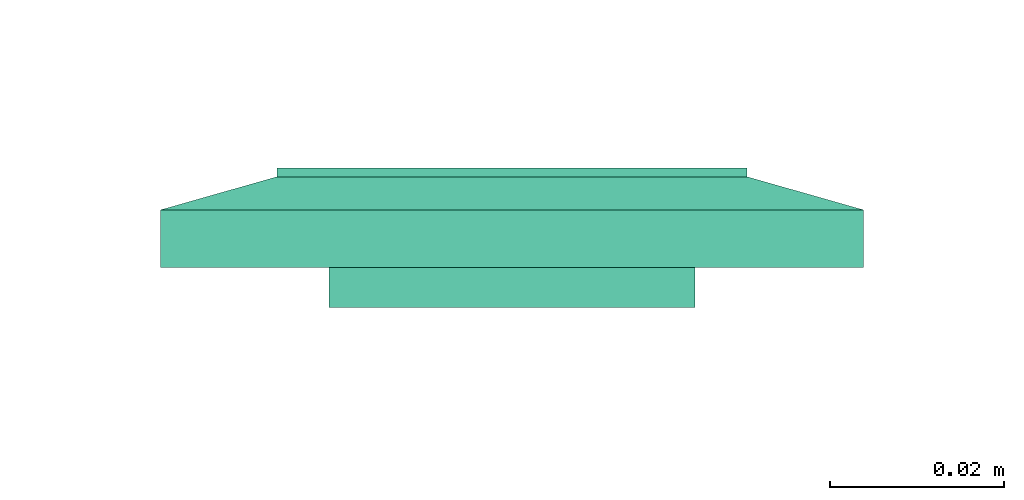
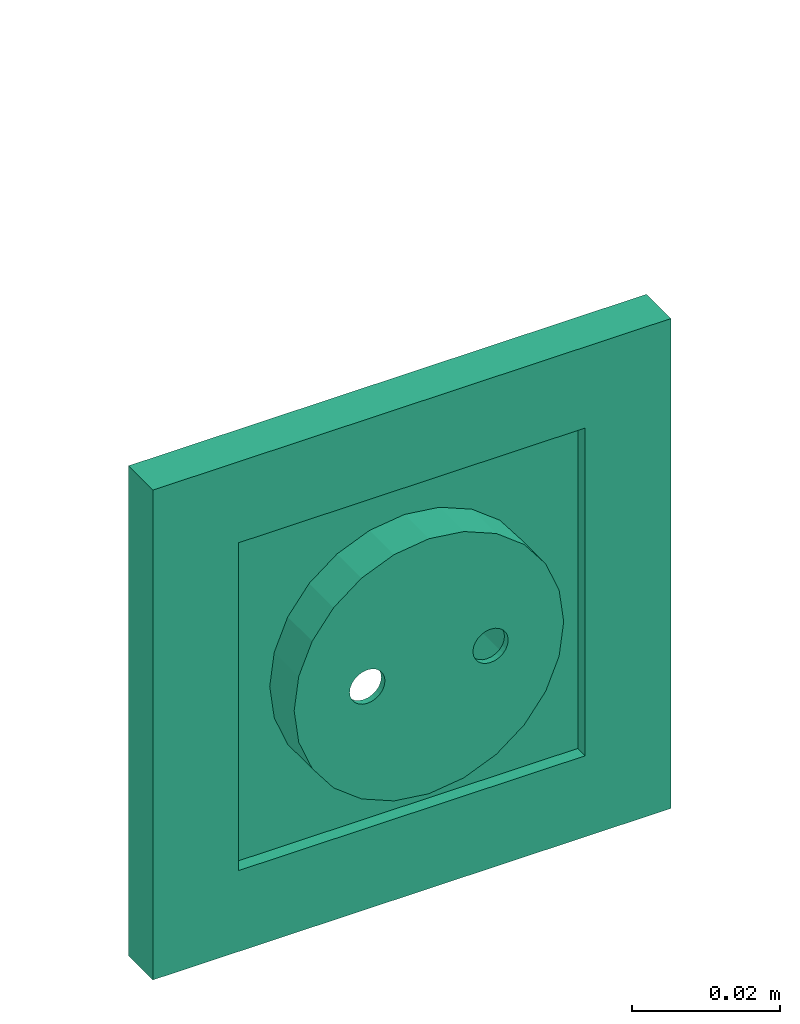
# One storey, part 34 of 153: 1 flow terminal.
"""IFC2X3 building model written with IfcOpenShell, lengths in metres."""

from ifc_helpers import new_model, entity, si_unit, converted_unit, derived_unit, direction, frame, origin, place, context, subcontext, project, spatial, face_set, surface_model, source, transform, mapped, type_object, type_shapes, element, save


model = new_model("IFC2X3")

# Units and contexts
model_context = context("Model", 3, precision=1e-05, world=origin(), true_north=direction((6.12303176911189e-17, 1.0)))
body_context = subcontext(model_context, "Body", "Model", "MODEL_VIEW")
ifc_project = project(units=[si_unit("LENGTHUNIT", "METRE"), si_unit("AREAUNIT", "SQUARE_METRE"), si_unit("VOLUMEUNIT", "CUBIC_METRE"), converted_unit("PLANEANGLEUNIT", "DEGREE", entity("IfcRatioMeasure", 0.0174532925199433), si_unit("PLANEANGLEUNIT", "RADIAN"), dimensions=[0, 0, 0, 0, 0, 0, 0]), si_unit("MASSUNIT", "GRAM", prefix="KILO"), derived_unit("MASSDENSITYUNIT", [(si_unit("MASSUNIT", "GRAM", prefix="KILO"), 1), (si_unit("LENGTHUNIT", "METRE"), -3)]), si_unit("TIMEUNIT", "SECOND"), si_unit("FREQUENCYUNIT", "HERTZ"), si_unit("THERMODYNAMICTEMPERATUREUNIT", "DEGREE_CELSIUS"), derived_unit("THERMALTRANSMITTANCEUNIT", [(si_unit("MASSUNIT", "GRAM", prefix="KILO"), 1), (si_unit("THERMODYNAMICTEMPERATUREUNIT", "KELVIN"), -1), (si_unit("TIMEUNIT", "SECOND"), -3)]), derived_unit("VOLUMETRICFLOWRATEUNIT", [(si_unit("LENGTHUNIT", "METRE"), 3), (si_unit("TIMEUNIT", "SECOND"), -1)]), si_unit("ELECTRICCURRENTUNIT", "AMPERE"), si_unit("ELECTRICVOLTAGEUNIT", "VOLT"), si_unit("POWERUNIT", "WATT"), si_unit("FORCEUNIT", "NEWTON"), si_unit("ILLUMINANCEUNIT", "LUX"), si_unit("LUMINOUSFLUXUNIT", "LUMEN"), si_unit("LUMINOUSINTENSITYUNIT", "CANDELA"), derived_unit("USERDEFINED", [(si_unit("MASSUNIT", "GRAM", prefix="KILO"), -1), (si_unit("LENGTHUNIT", "METRE"), -2), (si_unit("TIMEUNIT", "SECOND"), 3), (si_unit("LUMINOUSFLUXUNIT", "LUMEN"), 1)]), derived_unit("LINEARVELOCITYUNIT", [(si_unit("LENGTHUNIT", "METRE"), 1), (si_unit("TIMEUNIT", "SECOND"), -1)]), si_unit("PRESSUREUNIT", "PASCAL"), derived_unit("USERDEFINED", [(si_unit("LENGTHUNIT", "METRE"), -2), (si_unit("MASSUNIT", "GRAM", prefix="KILO"), 1), (si_unit("TIMEUNIT", "SECOND"), -2)])], contexts=[model_context])

# Site, building, storey
site_placement = place(None, origin())
site = spatial("IfcSite", under=ifc_project, at=site_placement, Name="Default", CompositionType="ELEMENT")
building_placement = place(site_placement, origin())
building = spatial("IfcBuilding", under=site, at=building_placement, CompositionType="ELEMENT")
storey_placement = place(building_placement, frame((0.0, 0.0, -4.62)))
storey = spatial("IfcBuildingStorey", under=building, at=storey_placement, Name="S02", CompositionType="ELEMENT", Elevation=-4.62)

# Flow terminal
light_fixture_type = type_object("IfcLightFixtureType", Name="PC IP44", PredefinedType="NOTDEFINED")
shared_shape = source(origin(), body_context, "Body", "SurfaceModel", [
    surface_model("IfcFaceBasedSurfaceModel", [(-0.00225000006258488, 0.0127499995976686, 0.00949633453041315), (0.0, 0.0104999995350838, 0.00949633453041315), (0.0, 0.0115376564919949, 0.0101656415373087), (0.0, 0.0139623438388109, 0.0101656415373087), (0.0, 0.0144589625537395, 0.00984531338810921), (0.0, 0.0121178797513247, 0.0102778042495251), (0.0, 0.0133821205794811, 0.0102778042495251), (0.0, 0.0127499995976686, 0.010399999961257), (0.0, 0.0149999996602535, 0.00949633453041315), (0.00225000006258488, 0.0127499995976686, 0.00949633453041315), (0.0, 0.0110410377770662, 0.00984531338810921), (0.0, 0.0127499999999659, 0.00949633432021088), (0.00225000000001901, 0.0127499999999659, 0.00949633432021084), (0.00217333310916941, 0.0121676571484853, 0.00949633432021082), (0.00194855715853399, 0.0116249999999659, 0.00949633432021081), (0.00159099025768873, 0.0111590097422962, 0.00949633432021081), (0.001125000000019, 0.010801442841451, 0.00949633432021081), (0.00058234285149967, 0.0105766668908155, 0.00949633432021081), (0.0, 0.0104999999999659, 0.00949633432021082), (-0.000582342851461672, 0.0105766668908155, 0.00949633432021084), (-0.001124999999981, 0.010801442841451, 0.00949633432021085), (-0.00159099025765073, 0.0111590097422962, 0.00949633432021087), (-0.00194855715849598, 0.011624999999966, 0.00949633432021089), (-0.0021733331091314, 0.0121676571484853, 0.00949633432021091), (-0.00224999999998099, 0.012749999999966, 0.00949633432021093), (-0.00217333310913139, 0.0133323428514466, 0.00949633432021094), (-0.00194855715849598, 0.013874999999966, 0.00949633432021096), (-0.00159099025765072, 0.0143409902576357, 0.00949633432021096), (-0.00112499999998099, 0.0146985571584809, 0.00949633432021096), (-0.00058234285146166, 0.0149233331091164, 0.00949633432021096), (0.0, 0.0149999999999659, 0.00949633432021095), (0.000582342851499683, 0.0149233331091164, 0.00949633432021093), (0.00112500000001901, 0.0146985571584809, 0.00949633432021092), (0.00159099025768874, 0.0143409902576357, 0.00949633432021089), (0.001948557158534, 0.0138749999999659, 0.00949633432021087), (0.00217333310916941, 0.0133323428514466, 0.00949633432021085), (0.00225000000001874, 0.0127499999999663, -0.00360000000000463), (0.00217333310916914, 0.0121676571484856, -0.00360000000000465), (0.00194855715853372, 0.0116249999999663, -0.00360000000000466), (0.00159099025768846, 0.0111590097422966, -0.00360000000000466), (0.00112500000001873, 0.0108014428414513, -0.00360000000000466), (0.000582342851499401, 0.0105766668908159, -0.00360000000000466), (0.0, 0.0104999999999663, -0.00360000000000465), (-0.000582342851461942, 0.0105766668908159, -0.00360000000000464), (-0.00112499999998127, 0.0108014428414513, -0.00360000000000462), (-0.001590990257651, 0.0111590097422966, -0.0036000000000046), (-0.00194855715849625, 0.0116249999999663, -0.00360000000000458), (-0.00217333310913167, 0.0121676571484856, -0.00360000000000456), (-0.00224999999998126, 0.0127499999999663, -0.00360000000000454), (-0.00217333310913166, 0.013332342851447, -0.00360000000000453), (-0.00194855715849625, 0.0138749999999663, -0.00360000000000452), (-0.00159099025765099, 0.014340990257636, -0.00360000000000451), (-0.00112499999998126, 0.0146985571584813, -0.00360000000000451), (-0.000582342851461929, 0.0149233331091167, -0.00360000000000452), (0.0, 0.0149999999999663, -0.00360000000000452), (0.000582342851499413, 0.0149233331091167, -0.00360000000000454), (0.00112500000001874, 0.0146985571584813, -0.00360000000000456), (0.00159099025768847, 0.014340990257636, -0.00360000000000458), (0.00194855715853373, 0.0138749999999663, -0.0036000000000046), (0.00217333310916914, 0.013332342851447, -0.00360000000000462), (0.0270000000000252, 0.026999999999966, 0.0113999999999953), (-0.0269999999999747, 0.026999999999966, 0.0113999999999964), (-0.0269999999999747, -0.0270000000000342, 0.0113999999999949), (0.0270000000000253, -0.0270000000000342, 0.0113999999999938), (-0.0199999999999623, 0.0, 0.0113999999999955), (-0.0193185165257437, -0.00517638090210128, 0.0113999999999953), (-0.0173205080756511, -0.0100000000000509, 0.0113999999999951), (-0.0141421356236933, -0.0141421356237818, 0.011399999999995), (-0.00999999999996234, -0.0173205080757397, 0.0113999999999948), (-0.00517638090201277, -0.0193185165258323, 0.0113999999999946), (0.0, -0.0200000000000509, 0.0113999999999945), (0.00517638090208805, -0.0193185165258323, 0.0113999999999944), (0.0100000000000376, -0.0173205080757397, 0.0113999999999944), (0.0141421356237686, -0.0141421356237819, 0.0113999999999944), (0.0173205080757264, -0.010000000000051, 0.0113999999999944), (0.0193185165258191, -0.00517638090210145, 0.0113999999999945), (0.0200000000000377, 0.0, 0.0113999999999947), (0.0193185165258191, 0.00517638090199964, 0.0113999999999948), (0.0173205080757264, 0.0099999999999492, 0.011399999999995), (0.0141421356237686, 0.0141421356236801, 0.0113999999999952), (0.0100000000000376, 0.0173205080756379, 0.0113999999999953), (0.00517638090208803, 0.0193185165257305, 0.0113999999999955), (0.0, 0.0199999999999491, 0.0113999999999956), (-0.00517638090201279, 0.0193185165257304, 0.0113999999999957), (-0.00999999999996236, 0.0173205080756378, 0.0113999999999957), (-0.0141421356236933, 0.01414213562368, 0.0113999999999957), (-0.0173205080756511, 0.00999999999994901, 0.0113999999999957), (-0.0193185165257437, 0.00517638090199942, 0.0113999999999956), (0.0270000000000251, 0.0269999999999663, 0.00199999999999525), (0.0270000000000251, -0.0270000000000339, 0.00199999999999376), (-0.0269999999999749, -0.0270000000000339, 0.00199999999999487), (-0.0269999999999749, 0.0269999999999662, 0.00199999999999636), (0.0210000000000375, 0.0, 0.00199999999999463), (0.0202844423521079, -0.00543519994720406, 0.00199999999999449), (0.0181865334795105, -0.0105000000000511, 0.0019999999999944), (0.0148492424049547, -0.0148492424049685, 0.00199999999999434), (0.0105000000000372, -0.0181865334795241, 0.00199999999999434), (0.0054351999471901, -0.0202844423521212, 0.00199999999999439), (0.0, -0.0210000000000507, 0.00199999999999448), (-0.00543519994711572, -0.020284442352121, 0.00199999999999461), (-0.0104999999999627, -0.0181865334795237, 0.00199999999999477), (-0.0148492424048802, -0.014849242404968, 0.00199999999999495), (-0.0181865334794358, -0.0105000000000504, 0.00199999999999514), (-0.020284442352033, -0.00543519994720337, 0.00199999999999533), (-0.0209999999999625, 0.0, 0.00199999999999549), (-0.0202844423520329, 0.0054351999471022, 0.00199999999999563), (-0.0181865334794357, 0.0104999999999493, 0.00199999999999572), (-0.01484924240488, 0.0148492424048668, 0.00199999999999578), (-0.0104999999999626, 0.0181865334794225, 0.00199999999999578), (-0.00543519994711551, 0.0202844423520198, 0.00199999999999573), (0.0, 0.0209999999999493, 0.00199999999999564), (0.00543519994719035, 0.0202844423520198, 0.00199999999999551), (0.0105000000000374, 0.0181865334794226, 0.00199999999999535), (0.0148492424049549, 0.0148492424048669, 0.00199999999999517), (0.0181865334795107, 0.0104999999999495, 0.00199999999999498), (0.0202844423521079, 0.00543519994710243, 0.00199999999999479), (0.0200000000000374, 0.0, -0.00360000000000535), (0.0193185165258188, -0.00517638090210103, -0.00360000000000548), (0.0173205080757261, -0.0100000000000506, -0.00360000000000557), (0.0141421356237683, -0.0141421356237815, -0.00360000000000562), (0.0100000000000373, -0.0173205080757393, -0.00360000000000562), (0.00517638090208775, -0.0193185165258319, -0.00360000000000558), (0.0, -0.0200000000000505, -0.00360000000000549), (-0.00517638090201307, -0.0193185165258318, -0.00360000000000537), (-0.00999999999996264, -0.0173205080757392, -0.00360000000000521), (-0.0141421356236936, -0.0141421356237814, -0.00360000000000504), (-0.0173205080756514, -0.0100000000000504, -0.00360000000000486), (-0.019318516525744, -0.00517638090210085, -0.00360000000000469), (-0.0199999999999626, 0.0, -0.00360000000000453), (-0.0193185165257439, 0.00517638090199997, -0.0036000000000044), (-0.0173205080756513, 0.00999999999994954, -0.00360000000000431), (-0.0141421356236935, 0.0141421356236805, -0.00360000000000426), (-0.00999999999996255, 0.0173205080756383, -0.00360000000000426), (-0.00517638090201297, 0.0193185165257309, -0.0036000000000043), (0.0, 0.0199999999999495, -0.00360000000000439), (0.00517638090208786, 0.0193185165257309, -0.00360000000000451), (0.0100000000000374, 0.0173205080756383, -0.00360000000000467), (0.0141421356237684, 0.0141421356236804, -0.00360000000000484), (0.0173205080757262, 0.0099999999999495, -0.00360000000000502), (0.0193185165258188, 0.00517638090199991, -0.00360000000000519), (-0.0123499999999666, 0.0, -0.00360000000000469), (-0.0122562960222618, -0.000711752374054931, -0.00360000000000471), (-0.0119815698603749, -0.00137500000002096, -0.00360000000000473), (-0.0115445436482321, -0.00194454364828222, -0.00360000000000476), (-0.0109749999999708, -0.00238156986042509, -0.00360000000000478), (-0.0103117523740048, -0.00265629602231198, -0.0036000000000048), (-0.00959999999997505, -0.00275000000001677, -0.00360000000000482), (-0.0088882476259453, -0.00265629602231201, -0.00360000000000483), (-0.00822499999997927, -0.00238156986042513, -0.00360000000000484), (-0.00765545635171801, -0.00194454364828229, -0.00360000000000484), (-0.00721843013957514, -0.00137500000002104, -0.00360000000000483), (-0.00694370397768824, -0.000711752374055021, -0.00360000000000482), (-0.00684999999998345, 0.0, -0.0036000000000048), (-0.00694370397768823, 0.000711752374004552, -0.00360000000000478), (-0.00721843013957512, 0.00137499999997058, -0.00360000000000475), (-0.00765545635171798, 0.00194454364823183, -0.00360000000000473), (-0.00822499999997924, 0.00238156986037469, -0.0036000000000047), (-0.00888824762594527, 0.00265629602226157, -0.00360000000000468), (-0.00959999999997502, 0.00274999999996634, -0.00360000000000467), (-0.0103117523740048, 0.00265629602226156, -0.00360000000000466), (-0.0109749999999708, 0.00238156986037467, -0.00360000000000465), (-0.011544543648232, 0.00194454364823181, -0.00360000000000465), (-0.0119815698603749, 0.00137499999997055, -0.00360000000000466), (-0.0122562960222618, 0.000711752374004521, -0.00360000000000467), (0.00685000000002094, 0.0, -0.00360000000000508), (0.0069437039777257, -0.00071175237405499, -0.0036000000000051), (0.00721843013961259, -0.00137500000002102, -0.00360000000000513), (0.00765545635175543, -0.00194454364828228, -0.00360000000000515), (0.00822500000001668, -0.00238156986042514, -0.00360000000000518), (0.00888824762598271, -0.00265629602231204, -0.0036000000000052), (0.00960000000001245, -0.00275000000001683, -0.00360000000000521), (0.0103117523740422, -0.00265629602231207, -0.00360000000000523), (0.0109750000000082, -0.00238156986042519, -0.00360000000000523), (0.0115445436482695, -0.00194454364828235, -0.00360000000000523), (0.0119815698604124, -0.0013750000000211, -0.00360000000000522), (0.0122562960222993, -0.00071175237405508, -0.00360000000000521), (0.012350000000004, 0.0, -0.00360000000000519), (0.0122562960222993, 0.000711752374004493, -0.00360000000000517), (0.0119815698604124, 0.00137499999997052, -0.00360000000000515), (0.0115445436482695, 0.00194454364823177, -0.00360000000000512), (0.0109750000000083, 0.00238156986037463, -0.0036000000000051), (0.0103117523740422, 0.00265629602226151, -0.00360000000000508), (0.00960000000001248, 0.00274999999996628, -0.00360000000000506), (0.00888824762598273, 0.0026562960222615, -0.00360000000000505), (0.0082250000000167, 0.00238156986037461, -0.00360000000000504), (0.00765545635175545, 0.00194454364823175, -0.00360000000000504), (0.0072184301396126, 0.00137499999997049, -0.00360000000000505), (0.00694370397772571, 0.000711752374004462, -0.00360000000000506), (0.0210000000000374, 0.0, -0.00460000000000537), (0.0202844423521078, -0.00543519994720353, -0.00460000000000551), (0.0181865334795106, -0.0105000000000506, -0.0046000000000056), (0.0148492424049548, -0.0148492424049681, -0.00460000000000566), (0.0105000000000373, -0.0181865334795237, -0.00460000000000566), (0.00543519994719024, -0.0202844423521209, -0.00460000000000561), (0.0, -0.0210000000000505, -0.00460000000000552), (-0.00543519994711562, -0.0202844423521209, -0.00460000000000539), (-0.0104999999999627, -0.0181865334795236, -0.00460000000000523), (-0.0148492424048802, -0.0148492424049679, -0.00460000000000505), (-0.0181865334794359, -0.0105000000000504, -0.00460000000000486), (-0.0202844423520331, -0.00543519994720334, -0.00460000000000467), (-0.0209999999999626, 0.0, -0.00460000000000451), (-0.020284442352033, 0.00543519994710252, -0.00460000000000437), (-0.0181865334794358, 0.0104999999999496, -0.00460000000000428), (-0.0148492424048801, 0.0148492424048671, -0.00460000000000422), (-0.0104999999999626, 0.0181865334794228, -0.00460000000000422), (-0.00543519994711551, 0.02028444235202, -0.00460000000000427), (0.0, 0.0209999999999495, -0.00460000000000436), (0.00543519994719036, 0.02028444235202, -0.00460000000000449), (0.0105000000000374, 0.0181865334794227, -0.00460000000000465), (0.0148492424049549, 0.014849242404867, -0.00460000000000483), (0.0181865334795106, 0.0104999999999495, -0.00460000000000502), (0.0202844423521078, 0.00543519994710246, -0.00460000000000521), (-0.00684999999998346, 0.0, -0.0046000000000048), (-0.00694370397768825, 0.000711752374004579, -0.00460000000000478), (-0.00721843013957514, 0.00137499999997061, -0.00460000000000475), (-0.007655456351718, 0.00194454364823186, -0.00460000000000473), (-0.00822499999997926, 0.00238156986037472, -0.0046000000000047), (-0.00888824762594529, 0.0026562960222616, -0.00460000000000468), (-0.00959999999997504, 0.00274999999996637, -0.00460000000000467), (-0.0103117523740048, 0.00265629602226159, -0.00460000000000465), (-0.0109749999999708, 0.0023815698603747, -0.00460000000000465), (-0.0115445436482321, 0.00194454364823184, -0.00460000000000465), (-0.0119815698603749, 0.00137499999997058, -0.00460000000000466), (-0.0122562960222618, 0.000711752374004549, -0.00460000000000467), (-0.0123499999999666, 0.0, -0.00460000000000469), (-0.0122562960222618, -0.000711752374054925, -0.00460000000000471), (-0.0119815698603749, -0.00137500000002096, -0.00460000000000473), (-0.0115445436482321, -0.00194454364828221, -0.00460000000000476), (-0.0109749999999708, -0.00238156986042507, -0.00460000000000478), (-0.0103117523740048, -0.00265629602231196, -0.0046000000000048), (-0.00959999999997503, -0.00275000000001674, -0.00460000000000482), (-0.00888824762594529, -0.00265629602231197, -0.00460000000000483), (-0.00822499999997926, -0.00238156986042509, -0.00460000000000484), (-0.007655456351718, -0.00194454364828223, -0.00460000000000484), (-0.00721843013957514, -0.00137500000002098, -0.00460000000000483), (-0.00694370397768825, -0.000711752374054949, -0.00460000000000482), (0.012350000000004, 0.0, -0.00460000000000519), (0.0122562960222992, 0.000711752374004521, -0.00460000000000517), (0.0119815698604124, 0.00137499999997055, -0.00460000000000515), (0.0115445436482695, 0.0019445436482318, -0.00460000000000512), (0.0109750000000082, 0.00238156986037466, -0.0046000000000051), (0.0103117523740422, 0.00265629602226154, -0.00460000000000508), (0.00960000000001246, 0.00274999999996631, -0.00460000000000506), (0.00888824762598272, 0.00265629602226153, -0.00460000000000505), (0.00822500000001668, 0.00238156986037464, -0.00460000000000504), (0.00765545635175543, 0.00194454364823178, -0.00460000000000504), (0.00721843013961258, 0.00137499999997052, -0.00460000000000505), (0.00694370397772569, 0.00071175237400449, -0.00460000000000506), (0.00685000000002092, 0.0, -0.00460000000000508), (0.00694370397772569, -0.000711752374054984, -0.0046000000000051), (0.00721843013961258, -0.00137500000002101, -0.00460000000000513), (0.00765545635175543, -0.00194454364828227, -0.00460000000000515), (0.00822500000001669, -0.00238156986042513, -0.00460000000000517), (0.00888824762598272, -0.00265629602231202, -0.0046000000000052), (0.00960000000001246, -0.0027500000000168, -0.00460000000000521), (0.0103117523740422, -0.00265629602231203, -0.00460000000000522), (0.0109750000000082, -0.00238156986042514, -0.00460000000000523), (0.0115445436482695, -0.00194454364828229, -0.00460000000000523), (0.0119815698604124, -0.00137500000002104, -0.00460000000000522), (0.0122562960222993, -0.000711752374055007, -0.00460000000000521), (0.040350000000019, 0.0403499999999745, 0.00659999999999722), (0.040350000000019, -0.0403500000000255, 0.00659999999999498), (-0.0403499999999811, -0.0403500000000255, 0.00659999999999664), (-0.0403499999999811, 0.0403499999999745, 0.00659999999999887), (0.027000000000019, 0.0269999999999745, 0.00659999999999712), (-0.0269999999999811, 0.0269999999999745, 0.00659999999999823), (-0.026999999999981, -0.0270000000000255, 0.00659999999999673), (0.027000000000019, -0.0270000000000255, 0.00659999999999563), (0.027000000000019, 0.0269999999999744, 0.0103999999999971), (-0.026999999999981, 0.0269999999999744, 0.0103999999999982), (-0.026999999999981, -0.0270000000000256, 0.0103999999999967), (0.027000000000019, -0.0270000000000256, 0.0103999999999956), (0.040350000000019, 0.0403499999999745, 0.00659999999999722), (0.040350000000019, -0.0403500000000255, 0.00659999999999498), (-0.0403499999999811, -0.0403500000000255, 0.00659999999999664), (-0.0403499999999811, 0.0403499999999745, 0.00659999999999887), (-0.0269999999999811, 0.0269999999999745, 0.00659999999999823), (-0.0269999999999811, -0.0270000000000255, 0.00659999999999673), (0.0270000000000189, -0.0270000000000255, 0.00659999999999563), (0.0270000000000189, 0.0269999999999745, 0.00659999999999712), (0.0403500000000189, 0.0403499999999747, 0.0), (0.0403500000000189, -0.0403500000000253, 0.0), (-0.0403499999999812, -0.0403500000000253, 0.0), (-0.0403499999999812, 0.0403499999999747, 0.0), (0.0270000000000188, 0.0269999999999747, 0.0), (-0.0269999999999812, 0.0269999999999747, 0.0), (-0.0269999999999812, -0.0270000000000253, 0.0), (0.0270000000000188, -0.0270000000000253, 0.0)], [face_set([[[0, 1, 2]], [[3, 4, 2, 5]], [[6, 3, 5, 7]], [[2, 4, 0]], [[4, 8, 0]], [[3, 9, 8]], [[1, 9, 10]], [[2, 3, 6, 7]], [[3, 10, 9]], [[2, 10, 3]], [[11, 1, 0, 8]], [[11, 8, 9, 1]]]), face_set([[[12, 13, 14, 15, 16, 17, 18, 19, 20, 21, 22, 23, 24, 25, 26, 27, 28, 29, 30, 31, 32, 33, 34, 35]], [[36, 37, 38, 39, 40, 41, 42, 43, 44, 45, 46, 47, 48, 49, 50, 51, 52, 53, 54, 55, 56, 57, 58, 59]], [[48, 47, 23, 24]], [[47, 46, 22, 23]], [[45, 44, 20, 21]], [[46, 45, 21, 22]], [[44, 43, 19, 20]], [[18, 19, 43, 42]], [[42, 41, 17, 18]], [[41, 40, 16, 17]], [[39, 38, 14, 15]], [[40, 39, 15, 16]], [[38, 37, 13, 14]], [[12, 13, 37, 36]], [[36, 59, 35, 12]], [[59, 58, 34, 35]], [[57, 56, 32, 33]], [[58, 57, 33, 34]], [[56, 55, 31, 32]], [[30, 31, 55, 54]], [[54, 53, 29, 30]], [[53, 52, 28, 29]], [[51, 50, 26, 27]], [[52, 51, 27, 28]], [[50, 49, 25, 26]], [[24, 25, 49, 48]]]), face_set([[[60, 61, 62, 63], [64, 65, 66, 67, 68, 69, 70, 71, 72, 73, 74, 75, 76, 77, 78, 79, 80, 81, 82, 83, 84, 85, 86, 87]], [[88, 89, 90, 91], [92, 93, 94, 95, 96, 97, 98, 99, 100, 101, 102, 103, 104, 105, 106, 107, 108, 109, 110, 111, 112, 113, 114, 115]], [[61, 60, 88, 91]], [[62, 61, 91, 90]], [[63, 62, 90, 89]], [[60, 63, 89, 88]], [[116, 117, 118, 119, 120, 121, 122, 123, 124, 125, 126, 127, 128, 129, 130, 131, 132, 133, 134, 135, 136, 137, 138, 139], [140, 141, 142, 143, 144, 145, 146, 147, 148, 149, 150, 151, 152, 153, 154, 155, 156, 157, 158, 159, 160, 161, 162, 163], [164, 165, 166, 167, 168, 169, 170, 171, 172, 173, 174, 175, 176, 177, 178, 179, 180, 181, 182, 183, 184, 185, 186, 187]], [[64, 128, 127, 65]], [[65, 127, 126, 66]], [[67, 125, 124, 68]], [[66, 126, 125, 67]], [[68, 124, 123, 69]], [[122, 70, 69, 123]], [[70, 122, 121, 71]], [[71, 121, 120, 72]], [[73, 119, 118, 74]], [[72, 120, 119, 73]], [[74, 118, 117, 75]], [[116, 76, 75, 117]], [[76, 116, 139, 77]], [[77, 139, 138, 78]], [[79, 137, 136, 80]], [[78, 138, 137, 79]], [[80, 136, 135, 81]], [[134, 82, 81, 135]], [[82, 134, 133, 83]], [[83, 133, 132, 84]], [[84, 132, 131, 85]], [[85, 131, 130, 86]], [[130, 129, 87, 86]], [[64, 87, 129, 128]], [[188, 189, 190, 191, 192, 193, 194, 195, 196, 197, 198, 199, 200, 201, 202, 203, 204, 205, 206, 207, 208, 209, 210, 211], [212, 213, 214, 215, 216, 217, 218, 219, 220, 221, 222, 223, 224, 225, 226, 227, 228, 229, 230, 231, 232, 233, 234, 235], [236, 237, 238, 239, 240, 241, 242, 243, 244, 245, 246, 247, 248, 249, 250, 251, 252, 253, 254, 255, 256, 257, 258, 259]], [[200, 199, 103, 104]], [[199, 198, 102, 103]], [[197, 196, 100, 101]], [[198, 197, 101, 102]], [[196, 195, 99, 100]], [[98, 99, 195, 194]], [[194, 193, 97, 98]], [[193, 192, 96, 97]], [[191, 190, 94, 95]], [[192, 191, 95, 96]], [[190, 189, 93, 94]], [[92, 93, 189, 188]], [[188, 211, 115, 92]], [[211, 210, 114, 115]], [[209, 208, 112, 113]], [[210, 209, 113, 114]], [[208, 207, 111, 112]], [[110, 111, 207, 206]], [[206, 205, 109, 110]], [[205, 204, 108, 109]], [[203, 202, 106, 107]], [[204, 203, 107, 108]], [[202, 201, 105, 106]], [[104, 105, 201, 200]], [[141, 225, 226, 142]], [[140, 224, 225, 141]], [[144, 228, 229, 145]], [[143, 227, 228, 144]], [[142, 226, 227, 143]], [[230, 146, 145, 229]], [[149, 233, 232, 148]], [[148, 232, 231, 147]], [[152, 212, 235, 151]], [[151, 235, 234, 150]], [[150, 234, 233, 149]], [[146, 230, 231, 147]], [[154, 214, 213, 153]], [[153, 213, 212, 152]], [[157, 217, 216, 156]], [[156, 216, 215, 155]], [[155, 215, 214, 154]], [[218, 158, 157, 217]], [[160, 220, 221, 161]], [[159, 219, 220, 160]], [[163, 223, 224, 140]], [[162, 222, 223, 163]], [[161, 221, 222, 162]], [[158, 218, 219, 159]], [[166, 250, 249, 165]], [[165, 249, 248, 164]], [[169, 253, 252, 168]], [[168, 252, 251, 167]], [[167, 251, 250, 166]], [[254, 170, 169, 253]], [[172, 256, 257, 173]], [[171, 255, 256, 172]], [[175, 259, 236, 176]], [[174, 258, 259, 175]], [[173, 257, 258, 174]], [[170, 254, 255, 171]], [[177, 237, 238, 178]], [[176, 236, 237, 177]], [[180, 240, 241, 181]], [[179, 239, 240, 180]], [[178, 238, 239, 179]], [[242, 182, 181, 241]], [[185, 245, 244, 184]], [[184, 244, 243, 183]], [[164, 248, 247, 187]], [[187, 247, 246, 186]], [[186, 246, 245, 185]], [[182, 242, 243, 183]]]), face_set([[[260, 261, 262, 263], [264, 265, 266, 267]], [[260, 268, 269, 263]], [[263, 269, 270, 262]], [[262, 270, 271, 261]], [[261, 271, 268, 260]], [[264, 265, 269, 268]], [[265, 266, 270, 269]], [[266, 267, 271, 270]], [[268, 271, 267, 264]]]), face_set([[[272, 273, 274, 275], [276, 277, 278, 279]], [[280, 281, 282, 283], [284, 285, 286, 287]], [[275, 272, 280, 283]], [[274, 275, 283, 282]], [[273, 274, 282, 281]], [[272, 273, 281, 280]], [[284, 285, 276, 279]], [[285, 286, 277, 276]], [[286, 287, 278, 277]], [[279, 278, 287, 284]]])]),
])
type_shapes(light_fixture_type, [shared_shape])
flow_terminal_placement = place(storey_placement, frame((36.1517436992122, -194.741320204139, 0.130000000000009), z_axis=(0.0, 1.0, 0.0), x_axis=(-1.0, 0.0, 0.0)))
element("IfcFlowTerminal", 1, at=flow_terminal_placement, inside=storey, type_object=light_fixture_type, Name="INT Prise de courant:PC IP44", ObjectType="INT Prise de courant:PC IP44", context=body_context, shape_type="MappedRepresentation", body=[
    mapped(shared_shape, transform((0.0, 0.0, 0.0), scale=1.0)),
])

save(model, "model.ifc")
